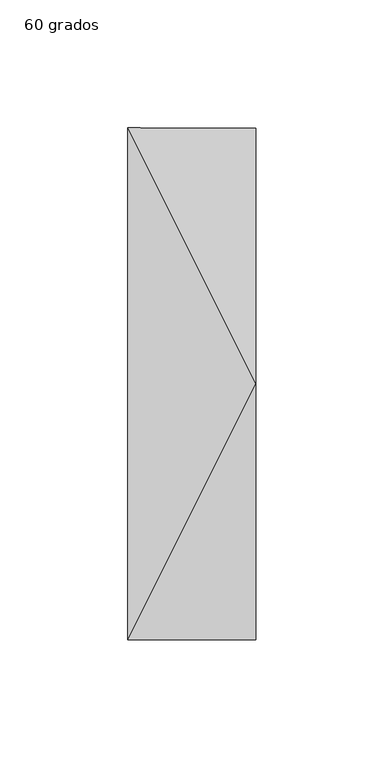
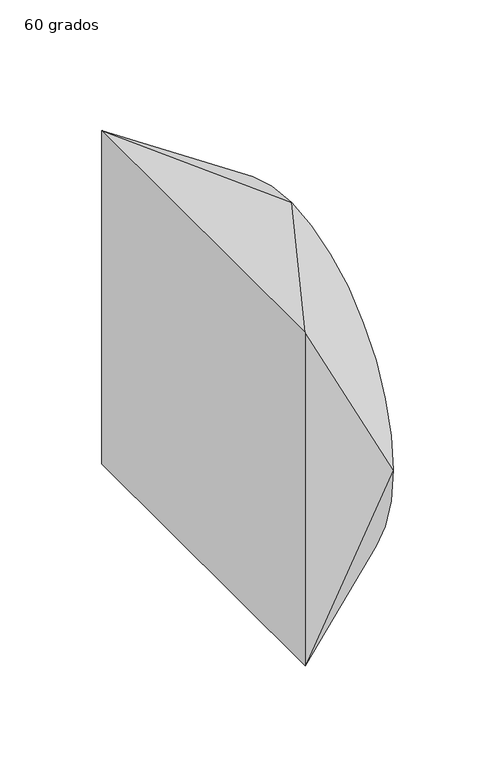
"""IFC4 building model written with IfcOpenShell, lengths in millimetres: duct fitting geometry, M_Transición de rectangular a redondo - Ángulo : 60 grados."""

from ifc_helpers import new_model, si_unit, frame, origin, place, context, project, spatial, circle_curve, source, transform, mapped, element, save
from ifc_brep_helpers import plane_surface, spline_surface, advanced_brep


def duct_fitting_60_grados_92a9f8b6(model_context):
    return source(origin(), model_context, "Body", "AdvancedBrep", [
        advanced_brep(
        [(50.0, 0.0, 100.0), (50.0, -100.0, 0.0), (50.0, 0.0, -100.0), (50.0, 100.0, 0.0), (0.0, -100.0, 100.0), (0.0, 100.0, 100.0), (0.0, 100.0, -100.0), (0.0, -100.0, -100.0)],
        [
            (0, 1, circle_curve(frame((50.0, 0.0, 0.0), z_axis=(1.0, 0.0, 0.0), x_axis=(0.0, 1.0, 0.0)), 100.0)),
            (1, 2, circle_curve(frame((50.0, 0.0, 0.0), z_axis=(1.0, 0.0, 0.0), x_axis=(0.0, 1.0, 0.0)), 100.0)),
            (2, 3, circle_curve(frame((50.0, 0.0, 0.0), z_axis=(1.0, 0.0, 0.0), x_axis=(0.0, 1.0, 0.0)), 100.0)),
            (3, 0, circle_curve(frame((50.0, 0.0, 0.0), z_axis=(1.0, 0.0, 0.0), x_axis=(0.0, 1.0, 0.0)), 100.0)),
            (4, 5),
            (5, 6),
            (6, 7),
            (7, 4),
            (0, 4),
            (4, 1),
            (7, 1),
            (7, 2),
            (6, 2),
            (6, 3),
            (5, 3),
            (5, 0),
        ],
        [
            plane_surface(frame((50.0, 0.0, 0.0), z_axis=(1.0, 0.0, 0.0), x_axis=(0.0, 0.0, -1.0))),
            plane_surface(frame((0.0, 0.0, 0.0), z_axis=(-1.0, 0.0, 0.0), x_axis=(0.0, 0.0, -1.0))),
            spline_surface(2, 1, [[(0.0, -100.0, 100.0), (50.0, 0.0, 100.0)], [(0.0, -100.0, 100.0), (50.0, -100.0, 100.0)], [(0.0, -100.0, 100.0), (50.0, -100.0, 0.0)]], [3, 3], [2, 2], [0.0, 1.0], [0.0, 1.0], weights=[[1.0, 1.0], [0.7071067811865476, 0.7071067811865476], [1.0, 1.0]]),
            plane_surface(frame((0.0, -100.0, 0.0), z_axis=(0.0, -1.0, 0.0), x_axis=(0.0, 0.0, -1.0))),
            spline_surface(2, 1, [[(0.0, -100.0, -100.0), (50.0, -100.0, 0.0)], [(0.0, -100.0, -100.0), (50.0, -100.0, -100.0)], [(0.0, -100.0, -100.0), (50.0, 0.0, -100.0)]], [3, 3], [2, 2], [0.0, 1.0], [0.0, 1.0], weights=[[1.0, 1.0], [0.7071067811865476, 0.7071067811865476], [1.0, 1.0]]),
            plane_surface(frame((0.0, 0.0, -100.0), z_axis=(0.0, 0.0, -1.0), x_axis=(0.0, 1.0, 0.0))),
            spline_surface(2, 1, [[(0.0, 100.0, -100.0), (50.0, 0.0, -100.0)], [(0.0, 100.0, -100.0), (50.0, 100.0, -100.0)], [(0.0, 100.0, -100.0), (50.0, 100.0, 0.0)]], [3, 3], [2, 2], [0.0, 1.0], [0.0, 1.0], weights=[[1.0, 1.0], [0.7071067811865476, 0.7071067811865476], [1.0, 1.0]]),
            plane_surface(frame((0.0, 100.0, 0.0), z_axis=(0.0, 1.0, 0.0), x_axis=(0.0, 0.0, 1.0))),
            spline_surface(2, 1, [[(0.0, 100.0, 100.0), (50.0, 100.0, 0.0)], [(0.0, 100.0, 100.0), (50.0, 100.0, 100.0)], [(0.0, 100.0, 100.0), (50.0, 0.0, 100.0)]], [3, 3], [2, 2], [0.0, 1.0], [0.0, 1.0], weights=[[1.0, 1.0], [0.7071067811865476, 0.7071067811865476], [1.0, 1.0]]),
            plane_surface(frame((0.0, 0.0, 100.0), z_axis=(0.0, 0.0, 1.0), x_axis=(0.0, -1.0, 0.0))),
        ],
        [
            (0, [[1, 2, 3, 4]]),
            (1, [[5, 6, 7, 8]]),
            (2, [[-1, 9, 10]]),
            (3, [[-8, 11, -10]]),
            (4, [[-2, -11, 12]]),
            (5, [[-7, 13, -12]]),
            (6, [[-3, -13, 14]]),
            (7, [[-6, 15, -14]]),
            (8, [[-4, -15, 16]]),
            (9, [[-5, -9, -16]]),
        ],
    ),
    ])


if __name__ == "__main__":
    model = new_model("IFC4")
    model_context = context("Model", 3, world=origin())
    ifc_project = project(units=[si_unit("LENGTHUNIT", "METRE", prefix="MILLI")], contexts=[model_context])
    site = spatial("IfcSite", under=ifc_project)
    building = spatial("IfcBuilding", under=site)
    placement = place(None, origin())
    duct_fitting_60_grados_shape = duct_fitting_60_grados_92a9f8b6(model_context)
    element("IfcDuctFitting", 1, ObjectType="M_Transición de rectangular a redondo - Ángulo : 60 grados", at=placement, inside=building, context=model_context, shape_type="MappedRepresentation", body=[
        mapped(duct_fitting_60_grados_shape, transform((0.0, 0.0, 0.0), x_axis=(1.0, 0.0, 0.0), y_axis=(0.0, 1.0, 0.0), z_axis=(0.0, 0.0, 1.0))),
    ])
    save(model, "model.ifc")
